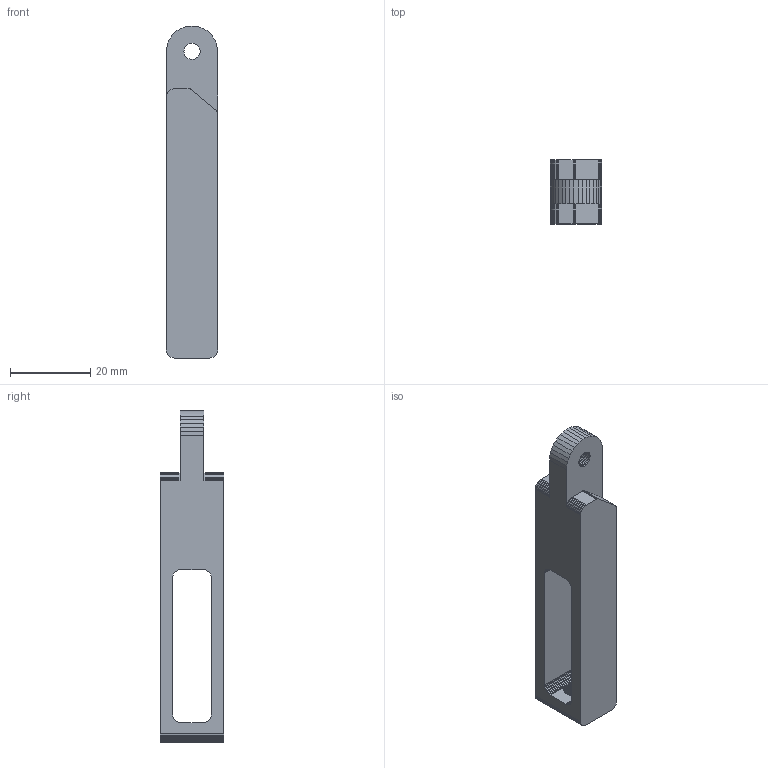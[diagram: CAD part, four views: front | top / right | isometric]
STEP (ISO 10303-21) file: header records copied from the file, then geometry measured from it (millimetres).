
FILE_DESCRIPTION(('eMachineShop Model'),'2;1');
FILE_NAME('/var/converter/output/link_2_1744403503.214.step', '2024-08-20T14:05:38',('eMachineShop'),('eMachineShop'), 'eMachineShop','eMachineShop','Unknown');
FILE_SCHEMA(('AUTOMOTIVE_DESIGN { 1 0 10303 214 1 1 1 1 }'));
Length unit declared in the file: millimetre
Products named in the file (1): eMachineShop
Bounding box: 12.7 x 15.88 x 82.53 mm (x, y, z)
Volume: 9560.1 mm3; surface area: 5195.7 mm2
Topology: 1 solids, 1 shells, 412 faces, 972 edges, 561 vertices
Faces by surface type: plane 412
Entity records: 23426 total; most frequent: CARTESIAN_POINT 4350, DIRECTION 3282, LINE 2456, VECTOR 2456, ORIENTED_EDGE 1944, PCURVE 1944, DEFINITIONAL_REPRESENTATION 1944, EDGE_CURVE 972
